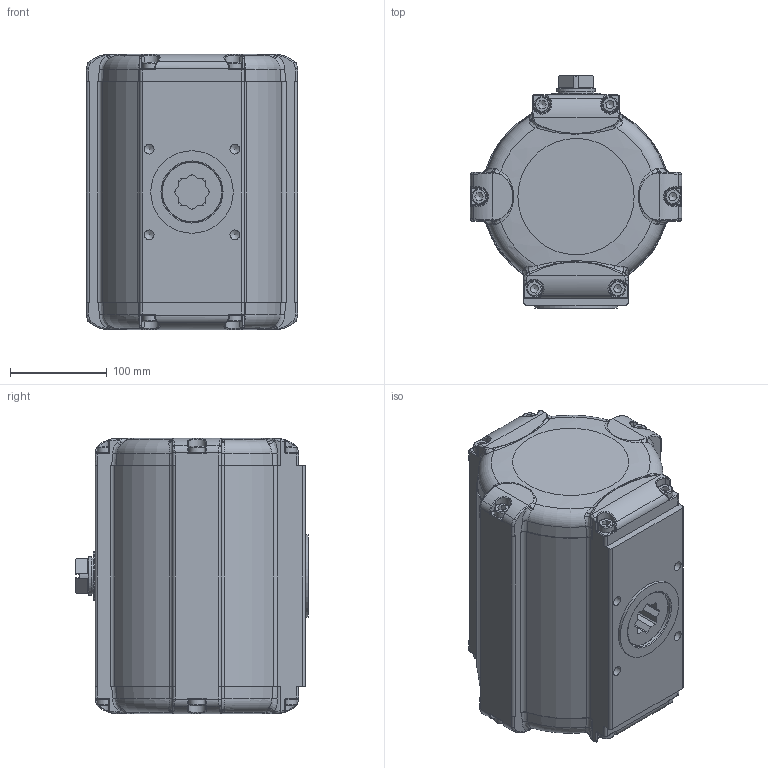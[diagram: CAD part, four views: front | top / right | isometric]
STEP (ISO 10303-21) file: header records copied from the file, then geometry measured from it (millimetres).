
FILE_DESCRIPTION((''),'2;1');
FILE_NAME('C:\Dokumente und Einstellungen\kir\Desktop\STEP IGES\SAD\SAD 35 BR03.stp','2006-12-19T10:29:52',('kir'),(''),'Autodesk Inventor 10','Autodesk Inventor 10','');
FILE_SCHEMA(('AUTOMOTIVE_DESIGN { 1 0 10303 214 1 1 1 1 }'));
Length unit declared in the file: millimetre
Products named in the file (1): ENG-039880
Bounding box: 218 x 240 x 284 mm (x, y, z)
Volume: 2317062.8 mm3; surface area: 537073 mm2
Topology: 27 solids, 27 shells, 968 faces, 2403 edges, 1502 vertices
Faces by surface type: bspline 353, plane 294, cylinder 205, torus 60, cone 56
Full cylindrical faces by diameter (mm): 8.376 x6, 10 x12, 10.5 x6, 16 x12, 34.9 x1, 36 x1, 37 x3, 39.8 x3, 40 x1, 40.1 x1, 45 x1, 50 x1, 56.9 x1, 57 x1, 61.8 x2, 85 x1, 176 x1, 186.592 x2
Entity records: 119271 total; most frequent: CARTESIAN_POINT 99668, ORIENTED_EDGE 4210, DIRECTION 3532, EDGE_CURVE 2105, AXIS2_PLACEMENT_3D 1470, VERTEX_POINT 1382, EDGE_LOOP 1203, FACE_OUTER_BOUND 968
